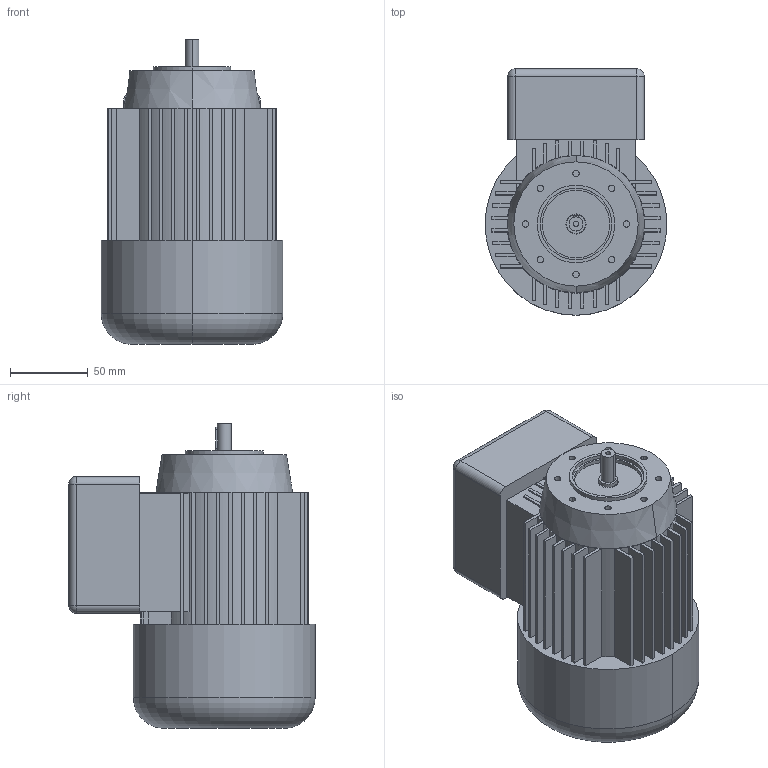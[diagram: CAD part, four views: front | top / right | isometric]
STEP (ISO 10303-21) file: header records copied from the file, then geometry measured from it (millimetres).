
FILE_DESCRIPTION (( 'STEP AP214' ), '1' );
FILE_NAME ('MR56B4-B14.STEP', '2020-03-31T16:01:53', ( '' ), ( '' ), 'SwSTEP 2.0', 'SolidWorks 2018', '' );
FILE_SCHEMA (( 'AUTOMOTIVE_DESIGN' ));
Length unit declared in the file: millimetre
Products named in the file (3): MR56B4-B14; _M_RS_28_PC_7_56_B14-G_AC_14__none____MT_0,09_kW_56_B4_B14_X3_EL.3d; ARBRE AVANT
Assembly tree (2 placements, depth 2):
  MR56B4-B14
    ARBRE AVANT
    _M_RS_28_PC_7_56_B14-G_AC_14__none____MT_0,09_kW_56_B4_B14_X3_EL.3d
Bounding box: 117 x 158.5 x 196 mm (x, y, z)
Volume: 1856282.5 mm3; surface area: 156403.3 mm2
Topology: 3 solids, 3 shells, 255 faces, 688 edges, 451 vertices
Faces by surface type: plane 160, cylinder 87, sphere 4, cone 2, torus 2
Entity records: 10695 total; most frequent: CARTESIAN_POINT 1451, DIRECTION 1383, ORIENTED_EDGE 1368, EDGE_CURVE 684, VECTOR 497, LINE 497, VERTEX_POINT 451, AXIS2_PLACEMENT_3D 443
